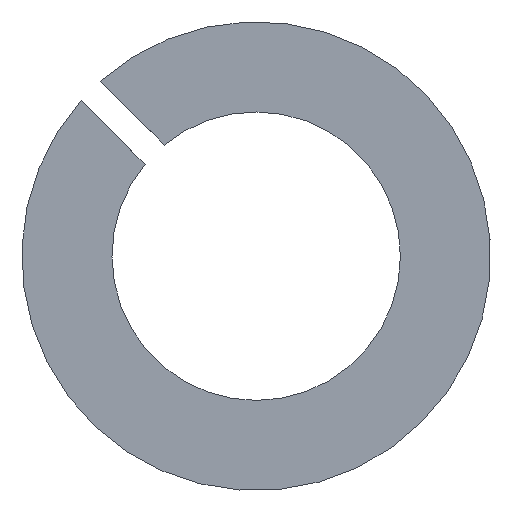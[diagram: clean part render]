
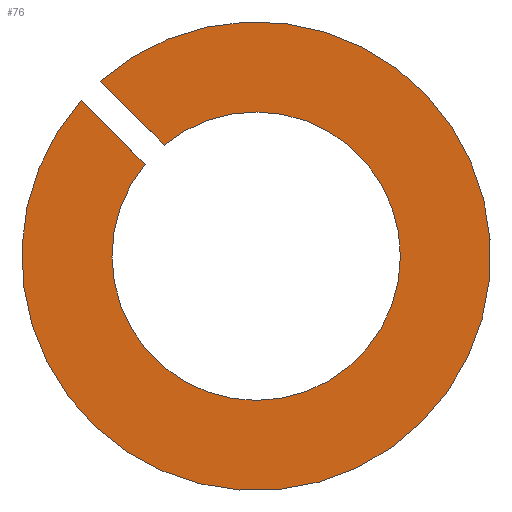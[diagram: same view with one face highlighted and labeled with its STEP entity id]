
A CAD part, left-side view. The second image highlights one B-rep face of the part: STEP entity #76.
In plain terms, the highlighted planar face has unit normal (-1, 0, 0).
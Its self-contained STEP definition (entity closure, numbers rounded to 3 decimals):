
#76 = ADVANCED_FACE( '', ( #92 ), #93, .T. );
#92 = FACE_OUTER_BOUND( '', #120, .T. );
#93 = PLANE( '', #121 );
#120 = EDGE_LOOP( '', ( #153, #154, #155, #156 ) );
#121 = AXIS2_PLACEMENT_3D( '', #157, #158, #159 );
#153 = ORIENTED_EDGE( '', *, *, #264, .T. );
#154 = ORIENTED_EDGE( '', *, *, #265, .T. );
#155 = ORIENTED_EDGE( '', *, *, #260, .F. );
#156 = ORIENTED_EDGE( '', *, *, #266, .T. );
#157 = CARTESIAN_POINT( '', ( 0., 13., 0. ) );
#158 = DIRECTION( '', ( -1., 0., 0. ) );
#159 = DIRECTION( '', ( 0., 0., 1. ) );
#260 = EDGE_CURVE( '', #296, #297, #298, .T. );
#264 = EDGE_CURVE( '', #304, #305, #306, .T. );
#265 = EDGE_CURVE( '', #305, #297, #307, .T. );
#266 = EDGE_CURVE( '', #296, #304, #308, .T. );
#296 = VERTEX_POINT( '', #356 );
#297 = VERTEX_POINT( '', #357 );
#298 = CIRCLE( '', #358, 13. );
#304 = VERTEX_POINT( '', #366 );
#305 = VERTEX_POINT( '', #367 );
#306 = CIRCLE( '', #368, 8. );
#307 = LINE( '', #369, #370 );
#308 = LINE( '', #371, #372 );
#356 = CARTESIAN_POINT( '', ( 0., 8.647, 9.707 ) );
#357 = CARTESIAN_POINT( '', ( 0., 9.707, 8.647 ) );
#358 = AXIS2_PLACEMENT_3D( '', #440, #441, #442 );
#366 = CARTESIAN_POINT( '', ( 0., 5.102, 6.162 ) );
#367 = CARTESIAN_POINT( '', ( 0., 6.162, 5.102 ) );
#368 = AXIS2_PLACEMENT_3D( '', #448, #449, #450 );
#369 = CARTESIAN_POINT( '', ( 0., 5.834, 4.773 ) );
#370 = VECTOR( '', #451, 1000. );
#371 = CARTESIAN_POINT( '', ( 0., 9.016, 10.076 ) );
#372 = VECTOR( '', #452, 1000. );
#440 = CARTESIAN_POINT( '', ( 0., 0., 0. ) );
#441 = DIRECTION( '', ( 1., 0., 0. ) );
#442 = DIRECTION( '', ( 0., 0., -1. ) );
#448 = CARTESIAN_POINT( '', ( 0., 0., 0. ) );
#449 = DIRECTION( '', ( 1., 0., 0. ) );
#450 = DIRECTION( '', ( 0., 0., -1. ) );
#451 = DIRECTION( '', ( 0., 0.707, 0.707 ) );
#452 = DIRECTION( '', ( 0., -0.707, -0.707 ) );
